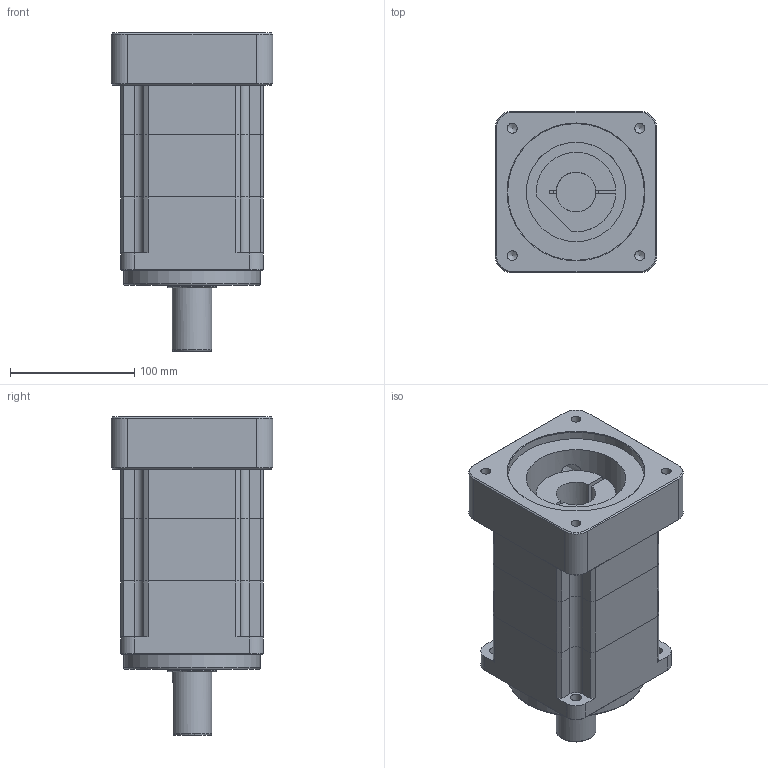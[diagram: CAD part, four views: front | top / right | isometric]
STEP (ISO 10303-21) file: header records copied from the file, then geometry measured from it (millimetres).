
FILE_DESCRIPTION((''),'2;1');
FILE_NAME('D:\김낙유\재익다운\유성\잡\홈페이지\SPI115 2단\SPI115 2단.stp','2010-09-28T13:18:59',('augold'),(''),'Autodesk Inventor 2010','Autodesk Inventor 2010','');
FILE_SCHEMA(('AUTOMOTIVE_DESIGN { 1 0 10303 214 1 1 1 1 }'));
Length unit declared in the file: millimetre
Products named in the file (5): SPI115 2단; SPI115 OUT; SPI115 FLANGE; SPI115 IN; 360114003
Assembly tree (4 placements, depth 2):
  SPI115 2단
    SPI115 OUT
    SPI115 FLANGE
    SPI115 IN
    360114003
Bounding box: 130 x 130 x 256 mm (x, y, z)
Volume: 2401575 mm3; surface area: 225525.2 mm2
Topology: 4 solids, 4 shells, 175 faces, 463 edges, 300 vertices
Faces by surface type: plane 80, cylinder 58, bspline 20, cone 14, torus 3
Full cylindrical faces by diameter (mm): 6.6 x5, 32 x2, 36 x1, 39.5 x1, 80 x1, 110 x1
Entity records: 5582 total; most frequent: CARTESIAN_POINT 1250, DIRECTION 897, ORIENTED_EDGE 826, EDGE_CURVE 413, AXIS2_PLACEMENT_3D 325, VERTEX_POINT 282, VECTOR 247, LINE 247
